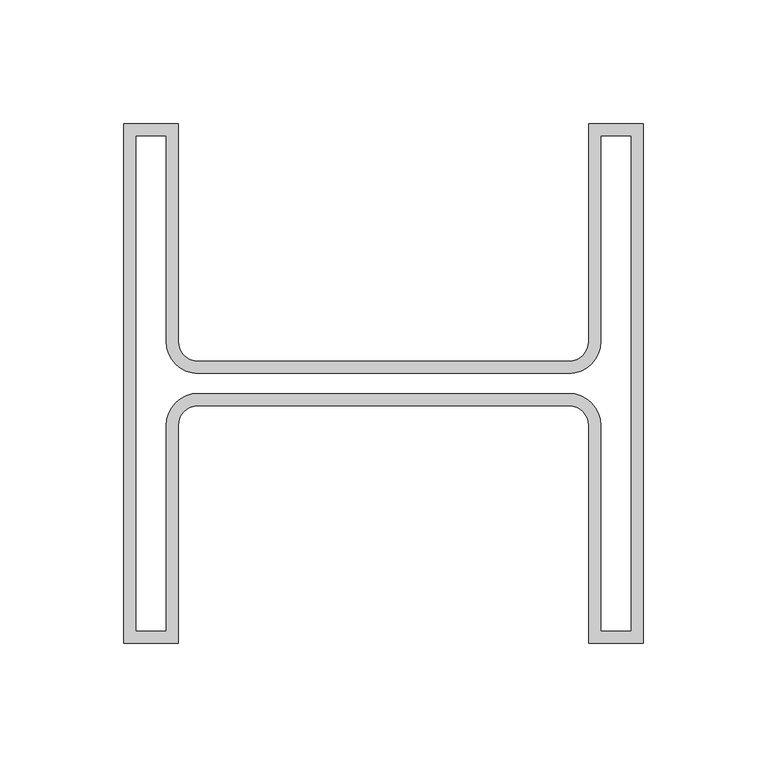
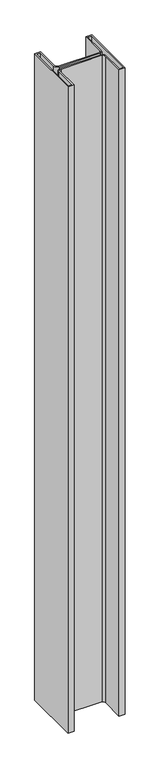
"""IFC4 building model written with IfcOpenShell, lengths in millimetres: column geometry, Состав плазас : Состав плазас."""

from ifc_helpers import new_model, si_unit, point, frame_2d, origin, origin_with_axes, place, context, project, spatial, polyline, circle_curve, trimmed, segment, composite_curve, outline, extrude, source, transform, mapped, element, save


def column_e7556f63(model_context):
    return source(origin(), model_context, "Body", "SweptSolid", [
        extrude(outline(composite_curve([segment(polyline([(-40117.5104743, -56390.4666904), (-40095.5104743, -56390.4666904), (-40095.5104743, -56600.4666904), (-40117.5104743, -56600.4666904), (-40117.5104743, -56512.4666904)]), True, "CONTINUOUS"), segment(trimmed(circle_curve(frame_2d((-40125.5104743, -56512.4666904)), 8.0), [point((-40117.5104743, -56512.4666904))], [point((-40125.5104743, -56504.4666904))], True, "CARTESIAN"), True, "CONTINUOUS"), segment(polyline([(-40125.5104743, -56504.4666904), (-40275.5104743, -56504.4666904)]), True, "CONTINUOUS"), segment(trimmed(circle_curve(frame_2d((-40275.5104743, -56512.4666904)), 8.0), [point((-40275.5104743, -56504.4666904))], [point((-40283.5104743, -56512.4666904))], True, "CARTESIAN"), True, "CONTINUOUS"), segment(polyline([(-40283.5104743, -56512.4666904), (-40283.5104743, -56600.4666904), (-40305.5104743, -56600.4666904), (-40305.5104743, -56390.4666904), (-40283.5104743, -56390.4666904), (-40283.5104743, -56478.4666904)]), True, "CONTINUOUS"), segment(trimmed(circle_curve(frame_2d((-40275.5104743, -56478.4666904)), 8.0), [point((-40283.5104743, -56478.4666904))], [point((-40275.5104743, -56486.4666904))], True, "CARTESIAN"), True, "CONTINUOUS"), segment(polyline([(-40275.5104743, -56486.4666904), (-40125.5104743, -56486.4666904)]), True, "CONTINUOUS"), segment(trimmed(circle_curve(frame_2d((-40125.5104743, -56478.4666904)), 8.0), [point((-40125.5104743, -56486.4666904))], [point((-40117.5104743, -56478.4666904))], True, "CARTESIAN"), True, "CONTINUOUS"), segment(polyline([(-40117.5104743, -56478.4666904), (-40117.5104743, -56390.4666904)]), True, "CONTINUOUS")], self_intersect=False), holes=[composite_curve([segment(polyline([(-40300.5104743, -56595.4666904), (-40288.5104743, -56595.4666904), (-40288.5104743, -56512.4666904)]), True, "CONTINUOUS"), segment(trimmed(circle_curve(frame_2d((-40275.5104743, -56512.4666904)), 13.0), [point((-40288.5104743, -56512.4666904))], [point((-40275.5104743, -56499.4666904))], False, "CARTESIAN"), True, "CONTINUOUS"), segment(polyline([(-40275.5104743, -56499.4666904), (-40125.5104743, -56499.4666904)]), True, "CONTINUOUS"), segment(trimmed(circle_curve(frame_2d((-40125.5104743, -56512.4666904)), 13.0), [point((-40125.5104743, -56499.4666904))], [point((-40112.5104743, -56512.4666904))], False, "CARTESIAN"), True, "CONTINUOUS"), segment(polyline([(-40112.5104743, -56512.4666904), (-40112.5104743, -56595.4666904), (-40100.5104743, -56595.4666904), (-40100.5104743, -56395.4666904), (-40112.5104743, -56395.4666904), (-40112.5104743, -56478.4666904)]), True, "CONTINUOUS"), segment(trimmed(circle_curve(frame_2d((-40125.5104743, -56478.4666904)), 13.0), [point((-40112.5104743, -56478.4666904))], [point((-40125.5104743, -56491.4666904))], False, "CARTESIAN"), True, "CONTINUOUS"), segment(polyline([(-40125.5104743, -56491.4666904), (-40275.5104743, -56491.4666904)]), True, "CONTINUOUS"), segment(trimmed(circle_curve(frame_2d((-40275.5104743, -56478.4666904)), 13.0), [point((-40275.5104743, -56491.4666904))], [point((-40288.5104743, -56478.4666904))], False, "CARTESIAN"), True, "CONTINUOUS"), segment(polyline([(-40288.5104743, -56478.4666904), (-40288.5104743, -56395.4666904), (-40300.5104743, -56395.4666904), (-40300.5104743, -56595.4666904)]), True, "CONTINUOUS")], self_intersect=False)]), origin_with_axes(), (0.0, 0.0, 1.0), 2500.0),
    ])


if __name__ == "__main__":
    model = new_model("IFC4")
    model_context = context("Model", 3, world=origin())
    ifc_project = project(units=[si_unit("LENGTHUNIT", "METRE", prefix="MILLI")], contexts=[model_context])
    site = spatial("IfcSite", under=ifc_project)
    building = spatial("IfcBuilding", under=site)
    placement = place(None, origin())
    column_shape = column_e7556f63(model_context)
    element("IfcColumn", 1, ObjectType="Состав плазас : Состав плазас", at=placement, inside=building, context=model_context, shape_type="MappedRepresentation", body=[
        mapped(column_shape, transform((0.0, 0.0, 0.0), x_axis=(1.0, 0.0, 0.0), y_axis=(0.0, 1.0, 0.0), z_axis=(0.0, 0.0, 1.0))),
    ])
    save(model, "model.ifc")
